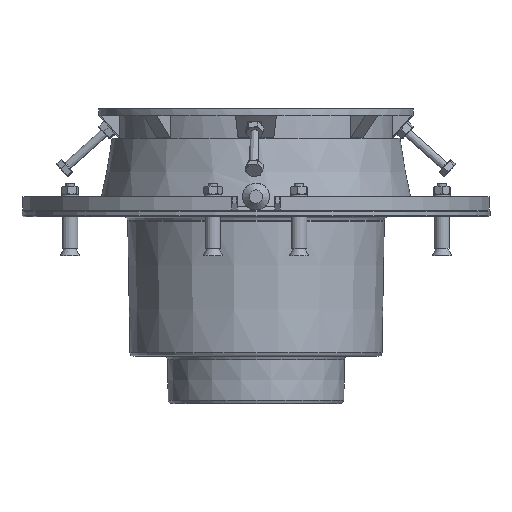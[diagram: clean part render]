
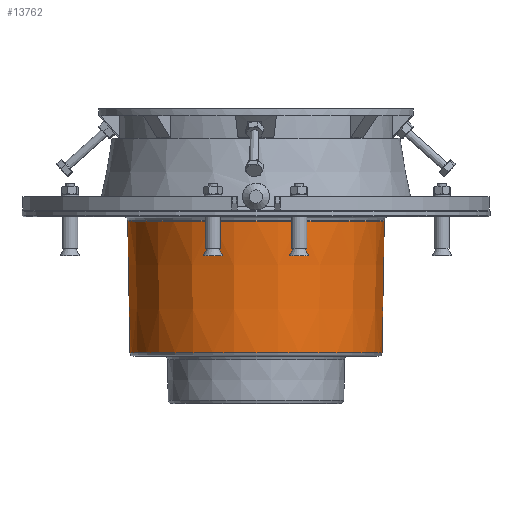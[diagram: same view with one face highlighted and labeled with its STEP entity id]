
A CAD part, left-side view. The second image highlights one B-rep face of the part: STEP entity #13762.
In plain terms, the highlighted conical face has half-angle 0.96 degrees and reference radius 89.717 mm.
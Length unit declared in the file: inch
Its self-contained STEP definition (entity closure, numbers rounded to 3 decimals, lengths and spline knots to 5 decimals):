
#553=CONICAL_SURFACE($,#14646,3.53218,0.96);
#3788=FACE_BOUND($,#4900,.T.);
#4101=FACE_OUTER_BOUND($,#4899,.T.);
#4899=EDGE_LOOP($,(#9780));
#4900=EDGE_LOOP($,(#9781));
#5980=CIRCLE($,#14645,3.56281);
#5981=CIRCLE($,#14647,3.50155);
#6383=VERTEX_POINT($,#19598);
#6384=VERTEX_POINT($,#19601);
#7761=EDGE_CURVE($,#6383,#6383,#5980,.T.);
#7762=EDGE_CURVE($,#6384,#6384,#5981,.T.);
#9780=ORIENTED_EDGE($,*,*,#7762,.F.);
#9781=ORIENTED_EDGE($,*,*,#7761,.T.);
#13762=ADVANCED_FACE($,(#4101,#3788),#553,.T.);
#14645=AXIS2_PLACEMENT_3D($,#19599,#15899,#15900);
#14646=AXIS2_PLACEMENT_3D($,#19600,#15901,#15902);
#14647=AXIS2_PLACEMENT_3D($,#19602,#15903,#15904);
#15899=DIRECTION('center_axis',(0.,-1.,0.));
#15900=DIRECTION('ref_axis',(1.,0.,0.));
#15901=DIRECTION('center_axis',(0.,1.,0.));
#15902=DIRECTION('ref_axis',(1.,0.,0.));
#15903=DIRECTION('center_axis',(0.,-1.,0.));
#15904=DIRECTION('ref_axis',(1.,0.,0.));
#19598=CARTESIAN_POINT('',(3.56281,2.4203,0.));
#19599=CARTESIAN_POINT('Origin',(0.,2.4203,0.));
#19600=CARTESIAN_POINT('Origin',(0.,0.59268,0.));
#19601=CARTESIAN_POINT('',(3.50155,-1.23493,0.));
#19602=CARTESIAN_POINT('Origin',(0.,-1.23493,0.));
